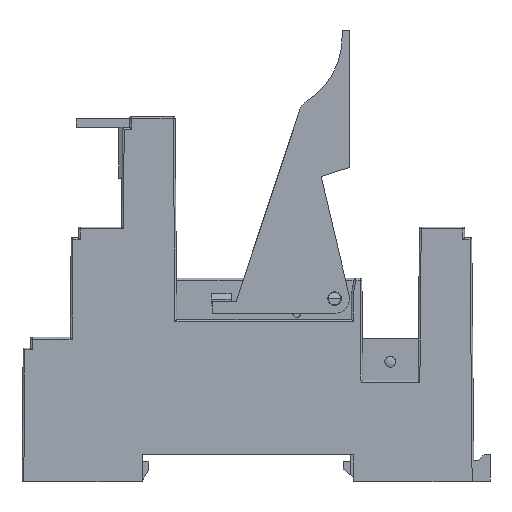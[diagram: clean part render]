
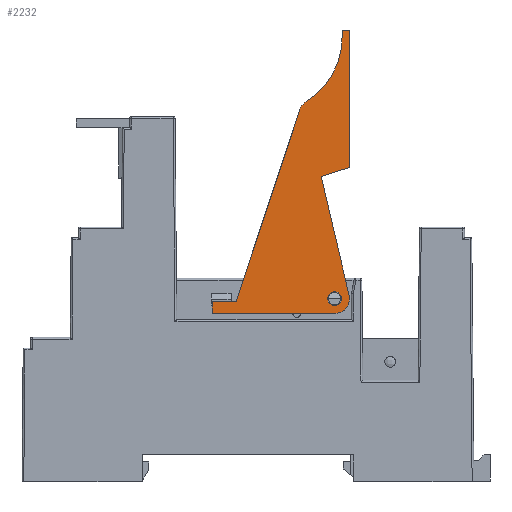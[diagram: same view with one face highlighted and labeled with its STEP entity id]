
A CAD part, left-side view. The second image highlights one B-rep face of the part: STEP entity #2232.
In plain terms, the highlighted planar face has unit normal (-1, 0, 0).
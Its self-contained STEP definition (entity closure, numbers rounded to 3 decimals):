
#93 = DIRECTION ( 'NONE',  ( 1., 0., 0. ) ) ;
#517 = CARTESIAN_POINT ( 'NONE',  ( 0.15, 24.82, 74.45 ) ) ;
#877 = CARTESIAN_POINT ( 'NONE',  ( 0.15, 26.07, 30.7 ) ) ;
#934 = CARTESIAN_POINT ( 'NONE',  ( 0.15, 24.82, 75.7 ) ) ;
#1043 = DIRECTION ( 'NONE',  ( 0., -1., 0. ) ) ;
#1283 = CIRCLE ( 'NONE', #9509, 1.15 ) ;
#1837 = AXIS2_PLACEMENT_3D ( 'NONE', #16724, #10141, #10429 ) ;
#2232 = ADVANCED_FACE ( 'NONE', ( #21099, #10492 ), #18957, .F. ) ;
#2529 = DIRECTION ( 'NONE',  ( 0., -1., 0. ) ) ;
#2702 = CARTESIAN_POINT ( 'NONE',  ( 0.15, 46.57, 30.2 ) ) ;
#2732 = EDGE_CURVE ( 'NONE', #14492, #21216, #13495, .T. ) ;
#3031 = DIRECTION ( 'NONE',  ( 0., 1., 0. ) ) ;
#3078 = DIRECTION ( 'NONE',  ( 1., 0., 0. ) ) ;
#3414 = LINE ( 'NONE', #24057, #25700 ) ;
#3422 = DIRECTION ( 'NONE',  ( 0., -1., 0. ) ) ;
#3528 = EDGE_CURVE ( 'NONE', #9413, #24961, #7551, .T. ) ;
#3936 = CARTESIAN_POINT ( 'NONE',  ( 0.15, 23.57, 52.7 ) ) ;
#4155 = ORIENTED_EDGE ( 'NONE', *, *, #8918, .F. ) ;
#4213 = ORIENTED_EDGE ( 'NONE', *, *, #5527, .F. ) ;
#4398 = VERTEX_POINT ( 'NONE', #15586 ) ;
#4415 = CARTESIAN_POINT ( 'NONE',  ( 0.15, 46.57, 30.2 ) ) ;
#4869 = ORIENTED_EDGE ( 'NONE', *, *, #20333, .F. ) ;
#5019 = EDGE_CURVE ( 'NONE', #4398, #11733, #13259, .T. ) ;
#5123 = EDGE_CURVE ( 'NONE', #11795, #6581, #7330, .T. ) ;
#5527 = EDGE_CURVE ( 'NONE', #16898, #4398, #25229, .T. ) ;
#5908 = VECTOR ( 'NONE', #25337, 1000. ) ;
#6527 = EDGE_CURVE ( 'NONE', #6581, #7937, #24815, .T. ) ;
#6539 = ORIENTED_EDGE ( 'NONE', *, *, #24132, .F. ) ;
#6581 = VERTEX_POINT ( 'NONE', #25685 ) ;
#6643 = CARTESIAN_POINT ( 'NONE',  ( 0.15, 28.32, 51.2 ) ) ;
#6688 = AXIS2_PLACEMENT_3D ( 'NONE', #18552, #93, #16650 ) ;
#7236 = ORIENTED_EDGE ( 'NONE', *, *, #5123, .F. ) ;
#7290 = DIRECTION ( 'NONE',  ( 0., -1., 0. ) ) ;
#7330 = LINE ( 'NONE', #26308, #8862 ) ;
#7357 = DIRECTION ( 'NONE',  ( 1., 0., 0. ) ) ;
#7551 = CIRCLE ( 'NONE', #24805, 2.5 ) ;
#7652 = EDGE_LOOP ( 'NONE', ( #20737, #26236 ) ) ;
#7795 = ORIENTED_EDGE ( 'NONE', *, *, #19702, .F. ) ;
#7937 = VERTEX_POINT ( 'NONE', #9588 ) ;
#8263 = LINE ( 'NONE', #3936, #21498 ) ;
#8862 = VECTOR ( 'NONE', #22380, 1000. ) ;
#8918 = EDGE_CURVE ( 'NONE', #22049, #26562, #23389, .T. ) ;
#9008 = LINE ( 'NONE', #17097, #5908 ) ;
#9230 = DIRECTION ( 'NONE',  ( 1., 0., 0. ) ) ;
#9413 = VERTEX_POINT ( 'NONE', #13460 ) ;
#9509 = AXIS2_PLACEMENT_3D ( 'NONE', #877, #15439, #3031 ) ;
#9574 = CIRCLE ( 'NONE', #21189, 2.5 ) ;
#9588 = CARTESIAN_POINT ( 'NONE',  ( 0.15, 30.804, 63.783 ) ) ;
#9672 = EDGE_CURVE ( 'NONE', #11733, #22049, #8263, .T. ) ;
#10141 = DIRECTION ( 'NONE',  ( 1., 0., 0. ) ) ;
#10243 = EDGE_CURVE ( 'NONE', #21216, #14492, #1283, .T. ) ;
#10429 = DIRECTION ( 'NONE',  ( 0., 1., 0. ) ) ;
#10492 = FACE_BOUND ( 'NONE', #7652, .T. ) ;
#10536 = ORIENTED_EDGE ( 'NONE', *, *, #17247, .F. ) ;
#10558 = ORIENTED_EDGE ( 'NONE', *, *, #25957, .F. ) ;
#10707 = DIRECTION ( 'NONE',  ( 0., 0., -1. ) ) ;
#10846 = ORIENTED_EDGE ( 'NONE', *, *, #3528, .F. ) ;
#10952 = DIRECTION ( 'NONE',  ( 0., -1., 0. ) ) ;
#11664 = DIRECTION ( 'NONE',  ( 0., 0., 1. ) ) ;
#11733 = VERTEX_POINT ( 'NONE', #26465 ) ;
#11795 = VERTEX_POINT ( 'NONE', #14395 ) ;
#12760 = CARTESIAN_POINT ( 'NONE',  ( 0.15, 23.636, 31.272 ) ) ;
#12988 = VECTOR ( 'NONE', #26287, 1000. ) ;
#13161 = DIRECTION ( 'NONE',  ( 0., -0.229, -0.973 ) ) ;
#13178 = ORIENTED_EDGE ( 'NONE', *, *, #9672, .F. ) ;
#13229 = ORIENTED_EDGE ( 'NONE', *, *, #5019, .F. ) ;
#13259 = LINE ( 'NONE', #21077, #13607 ) ;
#13366 = ORIENTED_EDGE ( 'NONE', *, *, #16413, .F. ) ;
#13460 = CARTESIAN_POINT ( 'NONE',  ( 0.15, 23.57, 30.7 ) ) ;
#13495 = CIRCLE ( 'NONE', #1837, 1.15 ) ;
#13607 = VECTOR ( 'NONE', #10707, 1000. ) ;
#13931 = CARTESIAN_POINT ( 'NONE',  ( 0.15, 23.636, 31.272 ) ) ;
#14376 = CARTESIAN_POINT ( 'NONE',  ( 0.15, 46.57, 28.2 ) ) ;
#14395 = CARTESIAN_POINT ( 'NONE',  ( 0.15, 42.57, 30.2 ) ) ;
#14492 = VERTEX_POINT ( 'NONE', #17468 ) ;
#15439 = DIRECTION ( 'NONE',  ( 1., 0., 0. ) ) ;
#15586 = CARTESIAN_POINT ( 'NONE',  ( 0.15, 23.57, 75.7 ) ) ;
#16323 = AXIS2_PLACEMENT_3D ( 'NONE', #16561, #21011, #2529 ) ;
#16413 = EDGE_CURVE ( 'NONE', #26562, #9413, #9574, .T. ) ;
#16561 = CARTESIAN_POINT ( 'NONE',  ( 0.15, 37.32, 74.45 ) ) ;
#16650 = DIRECTION ( 'NONE',  ( 0., 1., 0. ) ) ;
#16724 = CARTESIAN_POINT ( 'NONE',  ( 0.15, 26.07, 30.7 ) ) ;
#16898 = VERTEX_POINT ( 'NONE', #25752 ) ;
#17097 = CARTESIAN_POINT ( 'NONE',  ( 0.15, 46.57, 28.2 ) ) ;
#17247 = EDGE_CURVE ( 'NONE', #23484, #23902, #22214, .T. ) ;
#17468 = CARTESIAN_POINT ( 'NONE',  ( 0.15, 24.92, 30.7 ) ) ;
#17736 = DIRECTION ( 'NONE',  ( 0., 1., 0. ) ) ;
#18052 = CARTESIAN_POINT ( 'NONE',  ( 0.15, 46.57, 28.2 ) ) ;
#18552 = CARTESIAN_POINT ( 'NONE',  ( 0.15, 29.501, 61.649 ) ) ;
#18957 = PLANE ( 'NONE',  #25093 ) ;
#19702 = EDGE_CURVE ( 'NONE', #23902, #11795, #25249, .T. ) ;
#20333 = EDGE_CURVE ( 'NONE', #23254, #16898, #3414, .T. ) ;
#20737 = ORIENTED_EDGE ( 'NONE', *, *, #2732, .T. ) ;
#20820 = ORIENTED_EDGE ( 'NONE', *, *, #6527, .F. ) ;
#20942 = VECTOR ( 'NONE', #10952, 1000. ) ;
#21011 = DIRECTION ( 'NONE',  ( -1., 0., 0. ) ) ;
#21077 = CARTESIAN_POINT ( 'NONE',  ( 0.15, 23.57, 75.7 ) ) ;
#21099 = FACE_OUTER_BOUND ( 'NONE', #25496, .T. ) ;
#21189 = AXIS2_PLACEMENT_3D ( 'NONE', #21569, #3078, #1043 ) ;
#21216 = VERTEX_POINT ( 'NONE', #23465 ) ;
#21498 = VECTOR ( 'NONE', #22268, 1000. ) ;
#21569 = CARTESIAN_POINT ( 'NONE',  ( 0.15, 26.07, 30.7 ) ) ;
#22049 = VERTEX_POINT ( 'NONE', #6643 ) ;
#22214 = LINE ( 'NONE', #18052, #12988 ) ;
#22268 = DIRECTION ( 'NONE',  ( 0., 0.954, -0.301 ) ) ;
#22380 = DIRECTION ( 'NONE',  ( 0., -0.315, 0.949 ) ) ;
#22679 = VECTOR ( 'NONE', #7290, 1000. ) ;
#22723 = VECTOR ( 'NONE', #13161, 1000. ) ;
#23254 = VERTEX_POINT ( 'NONE', #517 ) ;
#23378 = CARTESIAN_POINT ( 'NONE',  ( 0.15, 26.07, 30.7 ) ) ;
#23389 = LINE ( 'NONE', #12760, #22723 ) ;
#23465 = CARTESIAN_POINT ( 'NONE',  ( 0.15, 27.22, 30.7 ) ) ;
#23484 = VERTEX_POINT ( 'NONE', #14376 ) ;
#23869 = CARTESIAN_POINT ( 'NONE',  ( 0.15, 26.07, 28.2 ) ) ;
#23902 = VERTEX_POINT ( 'NONE', #4415 ) ;
#24057 = CARTESIAN_POINT ( 'NONE',  ( 0.15, 24.82, 74.45 ) ) ;
#24132 = EDGE_CURVE ( 'NONE', #24961, #23484, #9008, .T. ) ;
#24556 = CIRCLE ( 'NONE', #16323, 12.5 ) ;
#24805 = AXIS2_PLACEMENT_3D ( 'NONE', #23378, #9230, #3422 ) ;
#24815 = CIRCLE ( 'NONE', #6688, 2.5 ) ;
#24961 = VERTEX_POINT ( 'NONE', #23869 ) ;
#25093 = AXIS2_PLACEMENT_3D ( 'NONE', #25831, #7357, #17736 ) ;
#25229 = LINE ( 'NONE', #934, #22679 ) ;
#25249 = LINE ( 'NONE', #2702, #20942 ) ;
#25337 = DIRECTION ( 'NONE',  ( 0., 1., 0. ) ) ;
#25496 = EDGE_LOOP ( 'NONE', ( #10536, #6539, #10846, #13366, #4155, #13178, #13229, #4213, #4869, #10558, #20820, #7236, #7795 ) ) ;
#25685 = CARTESIAN_POINT ( 'NONE',  ( 0.15, 31.873, 62.437 ) ) ;
#25700 = VECTOR ( 'NONE', #11664, 1000. ) ;
#25752 = CARTESIAN_POINT ( 'NONE',  ( 0.15, 24.82, 75.7 ) ) ;
#25831 = CARTESIAN_POINT ( 'NONE',  ( 0.15, 29.501, 61.649 ) ) ;
#25957 = EDGE_CURVE ( 'NONE', #7937, #23254, #24556, .T. ) ;
#26236 = ORIENTED_EDGE ( 'NONE', *, *, #10243, .T. ) ;
#26287 = DIRECTION ( 'NONE',  ( 0., 0., 1. ) ) ;
#26308 = CARTESIAN_POINT ( 'NONE',  ( 0.15, 42.57, 30.2 ) ) ;
#26465 = CARTESIAN_POINT ( 'NONE',  ( 0.15, 23.57, 52.7 ) ) ;
#26562 = VERTEX_POINT ( 'NONE', #13931 ) ;
